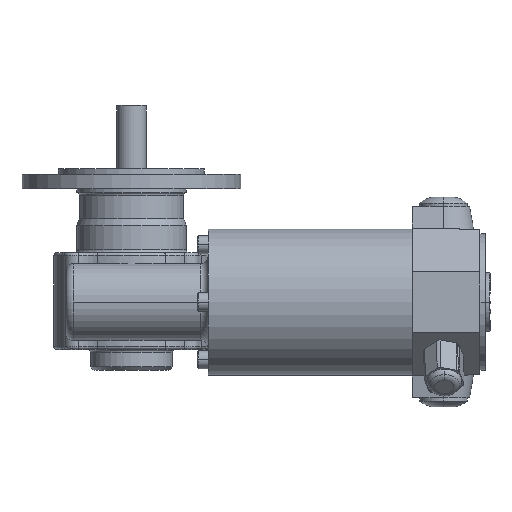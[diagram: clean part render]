
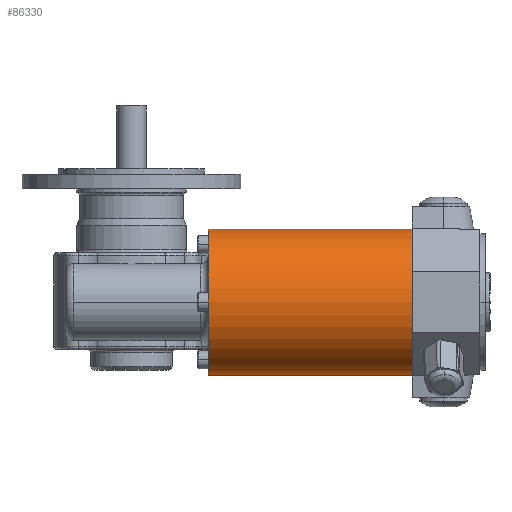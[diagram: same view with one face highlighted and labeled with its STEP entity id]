
A CAD part, front view. The second image highlights one B-rep face of the part: STEP entity #86330.
In plain terms, the highlighted cylindrical face has radius 40 mm (diameter 80 mm), a partial arc.
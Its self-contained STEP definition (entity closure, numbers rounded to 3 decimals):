
#32810=CARTESIAN_POINT('',(-48.603,455.,
-104.15));
#32820=DIRECTION('',(-0.026,0.,
1.));
#32830=DIRECTION('',(1.,0.,
0.026));
#32840=AXIS2_PLACEMENT_3D('',#32810,#32820,#32830);
#32850=CIRCLE('',#32840,40.);
#32860=CARTESIAN_POINT('',(-8.617,455.,
-103.102));
#32870=VERTEX_POINT('',#32860);
#32880=CARTESIAN_POINT('',(-48.603,495.,
-104.15));
#32890=VERTEX_POINT('',#32880);
#32900=EDGE_CURVE('',#32870,#32890,#32850,.T.);
#32920=CARTESIAN_POINT('',(-48.603,415.,
-104.15));
#32930=VERTEX_POINT('',#32920);
#32960=EDGE_CURVE('',#32930,#32870,#32850,.T.);
#34260=CARTESIAN_POINT('',(-51.535,455.,
7.812));
#34270=DIRECTION('',(0.026,0.,
-1.));
#34280=DIRECTION('',(0.,-1.,0.));
#34290=AXIS2_PLACEMENT_3D('',#34260,#34270,#34280);
#34300=CYLINDRICAL_SURFACE('',#34290,40.);
#36320=CARTESIAN_POINT('',(-51.535,455.,
7.812));
#36330=DIRECTION('',(0.026,0.,
-1.));
#36340=DIRECTION('',(0.,-1.,0.));
#36350=AXIS2_PLACEMENT_3D('',#36320,#36330,#36340);
#36360=CIRCLE('',#36350,40.);
#36370=CARTESIAN_POINT('',(-51.535,415.,
7.812));
#36380=VERTEX_POINT('',#36370);
#36410=CARTESIAN_POINT('',(-51.535,415.,
7.812));
#36420=DIRECTION('',(0.026,0.,
-1.));
#36430=VECTOR('',#36420,1.);
#36440=LINE('',#36410,#36430);
#36450=EDGE_CURVE('',#36380,#32930,#36440,.T.);
#36480=CARTESIAN_POINT('',(-51.535,495.,
7.812));
#36490=DIRECTION('',(0.026,0.,
-1.));
#36500=VECTOR('',#36490,1.);
#36510=LINE('',#36480,#36500);
#36520=CARTESIAN_POINT('',(-51.535,495.,
7.812));
#36530=VERTEX_POINT('',#36520);
#36540=EDGE_CURVE('',#36530,#32890,#36510,.T.);
#72960=EDGE_CURVE('',#36530,#36380,#36360,.T.);
#86260=ORIENTED_EDGE('',*,*,#36450,.T.);
#86270=ORIENTED_EDGE('',*,*,#72960,.T.);
#86280=ORIENTED_EDGE('',*,*,#36540,.F.);
#86290=ORIENTED_EDGE('',*,*,#32900,.T.);
#86300=ORIENTED_EDGE('',*,*,#32960,.T.);
#86310=EDGE_LOOP('',(#86300,#86290,#86280,#86270,#86260));
#86320=FACE_OUTER_BOUND('',#86310,.T.);
#86330=ADVANCED_FACE('',(#86320),#34300,.T.);
